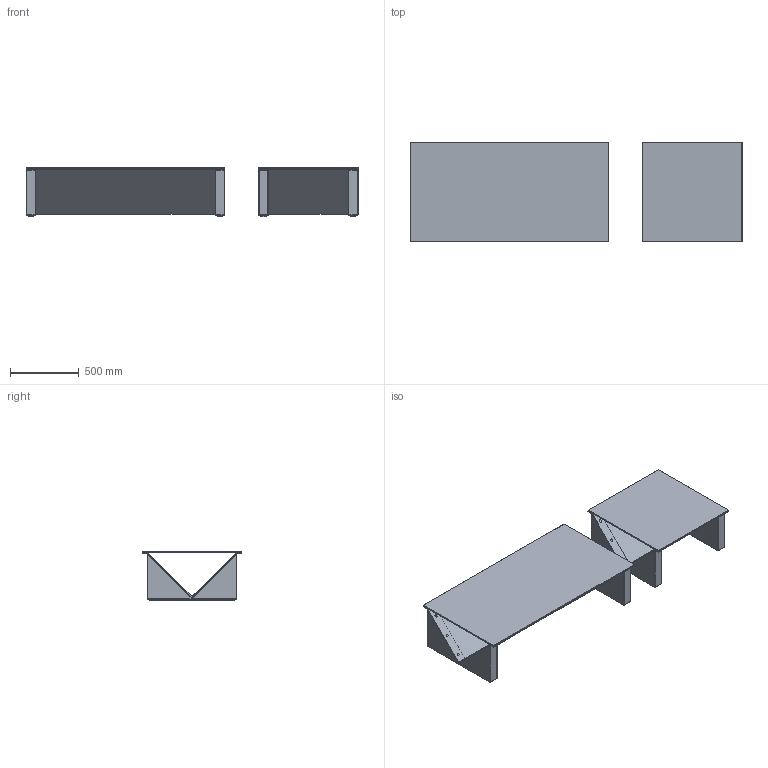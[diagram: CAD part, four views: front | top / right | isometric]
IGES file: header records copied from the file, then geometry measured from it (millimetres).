
Global section: file name: C:\Users\PrelleJohans\Desktop\Napoleone.igs; native system: Rhinoceros ( Jan  9 2023 ); preprocessor: Trout Lake IGES 012 Jan  9 2023; date: 230328.161259; units: millimetre
Bounding box: 2406.27 x 720.71 x 355.5 mm (x, y, z)
Surface area: 13592155.2 mm2 (no closed solid volume)
Topology: 0 solids, 0 shells, 468 faces, 2416 edges, 2400 vertices
Faces by surface type: bspline 468
